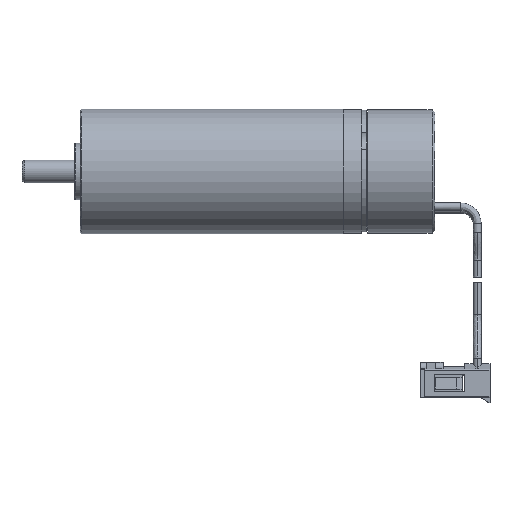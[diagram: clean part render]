
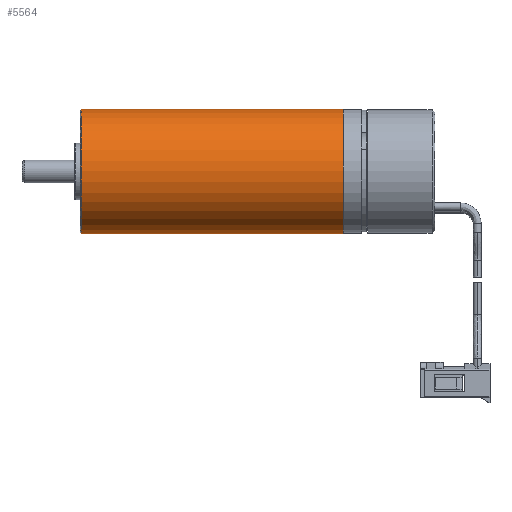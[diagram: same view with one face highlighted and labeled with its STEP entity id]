
A CAD part, top view. The second image highlights one B-rep face of the part: STEP entity #5564.
In plain terms, the highlighted cylindrical face has radius 11 mm (diameter 22 mm), a partial arc.
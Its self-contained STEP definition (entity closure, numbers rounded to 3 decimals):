
#1593=CARTESIAN_POINT('',(0.2,0.,0.));
#1594=DIRECTION('',(-1.,0.,0.));
#1595=DIRECTION('',(0.,-1.,0.));
#1596=AXIS2_PLACEMENT_3D('',#1593,#1594,#1595);
#1601=DIRECTION('',(-1.,0.,0.));
#1602=VECTOR('',#1601,46.3);
#1603=CARTESIAN_POINT('',(46.5,11.,0.));
#1604=LINE('',#1603,#1602);
#1608=CARTESIAN_POINT('',(46.5,0.,0.));
#1609=DIRECTION('',(1.,0.,0.));
#1610=DIRECTION('',(0.,1.,0.));
#1611=AXIS2_PLACEMENT_3D('',#1608,#1609,#1610);
#1616=DIRECTION('',(-1.,0.,0.));
#1617=VECTOR('',#1616,46.3);
#1618=CARTESIAN_POINT('',(46.5,-11.,0.));
#1619=LINE('',#1618,#1617);
#3614=CARTESIAN_POINT('',(46.5,11.,0.));
#3615=CARTESIAN_POINT('',(46.5,-11.,0.));
#3616=VERTEX_POINT('',#3614);
#3617=VERTEX_POINT('',#3615);
#3652=CARTESIAN_POINT('',(0.2,-11.,0.));
#3653=CARTESIAN_POINT('',(0.2,11.,0.));
#3654=VERTEX_POINT('',#3652);
#3655=VERTEX_POINT('',#3653);
#5550=CARTESIAN_POINT('',(51.975,0.,0.));
#5551=DIRECTION('',(-1.,0.,0.));
#5552=DIRECTION('',(0.,1.,0.));
#5553=AXIS2_PLACEMENT_3D('',#5550,#5551,#5552);
#5554=CYLINDRICAL_SURFACE('',#5553,11.);
#5556=ORIENTED_EDGE('',*,*,#5555,.T.);
#5558=ORIENTED_EDGE('',*,*,#5557,.F.);
#5559=ORIENTED_EDGE('',*,*,#5532,.T.);
#5561=ORIENTED_EDGE('',*,*,#5560,.T.);
#5562=EDGE_LOOP('',(#5556,#5558,#5559,#5561));
#5563=FACE_OUTER_BOUND('',#5562,.F.);
#5564=ADVANCED_FACE('',(#5563),#5554,.T.);
#1597=CIRCLE('',#1596,11.);
#1612=CIRCLE('',#1611,11.);
#5532=EDGE_CURVE('',#3616,#3617,#1612,.T.);
#5555=EDGE_CURVE('',#3654,#3655,#1597,.T.);
#5557=EDGE_CURVE('',#3616,#3655,#1604,.T.);
#5560=EDGE_CURVE('',#3617,#3654,#1619,.T.);
